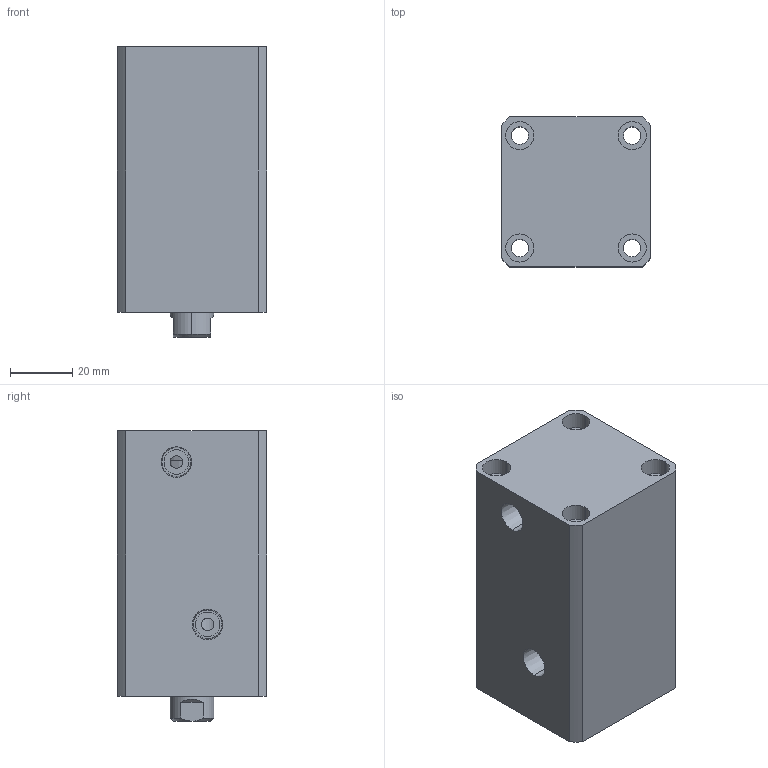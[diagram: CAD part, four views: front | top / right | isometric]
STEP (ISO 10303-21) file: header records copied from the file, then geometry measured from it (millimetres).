
FILE_DESCRIPTION (( 'STEP AP214' ), '1' );
FILE_NAME ('chtb-sd25x40n_asm.STEP', '2018-05-22T12:58:46', ( 'Windows' ), ( 'Microsoft' ), 'SwSTEP 2.0', 'SolidWorks 2015', '' );
FILE_SCHEMA (( 'AUTOMOTIVE_DESIGN' ));
Length unit declared in the file: millimetre
Products named in the file (4): CHTB-SD25X40NHSG; CHTB-SD25X40NBT; CHTB-25QG; chtb-sd25x40n_asm
Assembly tree (3 placements, depth 2):
  chtb-sd25x40n_asm
    CHTB-25QG
    CHTB-SD25X40NBT
    CHTB-SD25X40NHSG
Bounding box: 48 x 48 x 93 mm (x, y, z)
Volume: 168415.2 mm3; surface area: 44883.6 mm2
Topology: 3 solids, 3 shells, 144 faces, 377 edges, 257 vertices
Faces by surface type: cylinder 85, plane 36, cone 13, bspline 10
Entity records: 7940 total; most frequent: CARTESIAN_POINT 4299, ORIENTED_EDGE 742, DIRECTION 671, EDGE_CURVE 371, AXIS2_PLACEMENT_3D 278, VERTEX_POINT 257, EDGE_LOOP 182, ADVANCED_FACE 144
